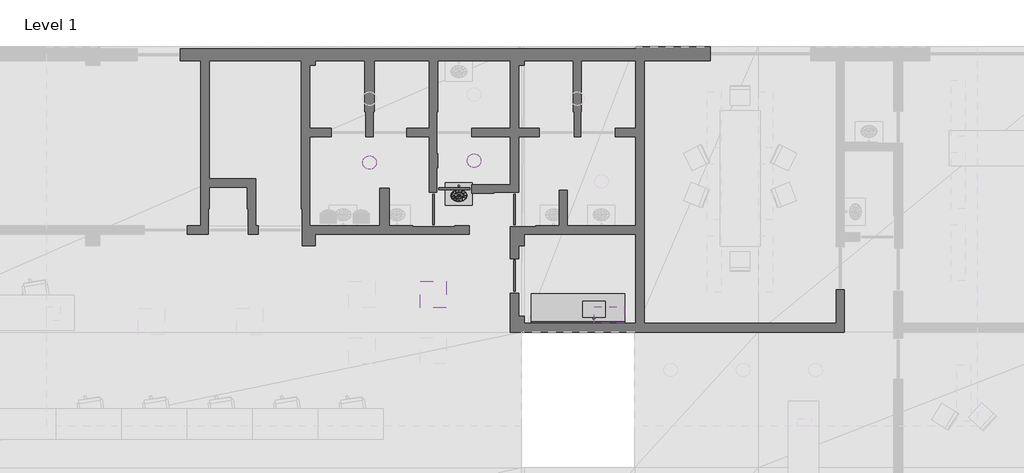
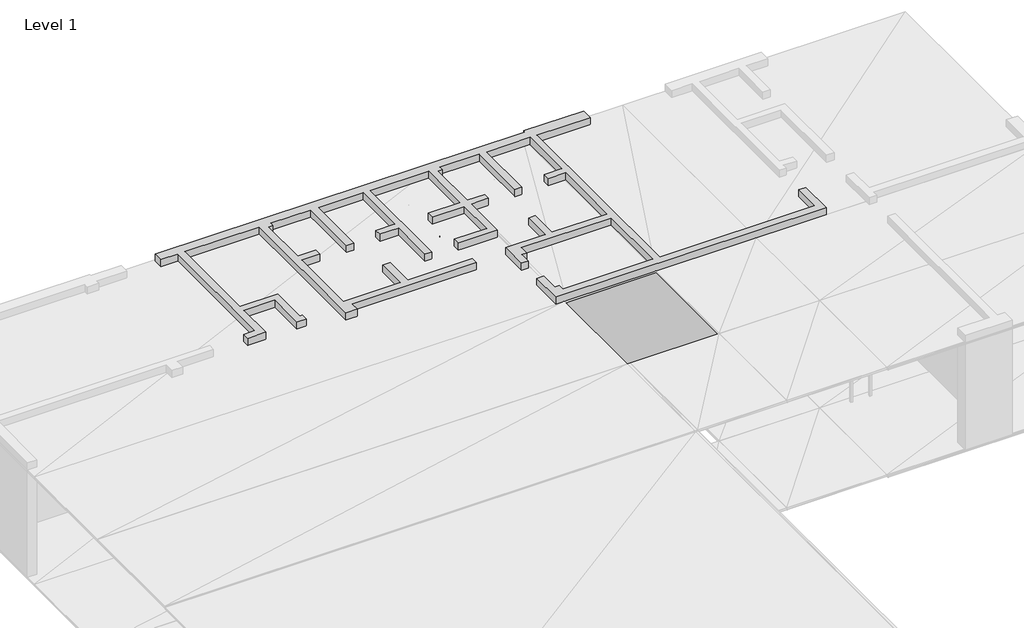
# One storey, part 12 of 14: 15 proxies.
"""IFC4 building model written with IfcOpenShell, lengths in millimetres."""

from ifc_helpers import new_model, si_unit, frame, origin, origin_with_axes, place, context, project, spatial, polyline, outline, extrude, faceted_brep, element, save

model = new_model("IFC4")

# Units and contexts
model_context = context("Model", 3, world=origin())
ifc_project = project(units=[si_unit("LENGTHUNIT", "METRE", prefix="MILLI")], contexts=[model_context])

# Site, building, storey
site = spatial("IfcSite", under=ifc_project)
building = spatial("IfcBuilding", under=site)
storey = spatial("IfcBuildingStorey", under=building, Name="Level 1", Elevation=0.0)

# Proxies
placement = place(None, origin())
element("IfcBuildingElementProxy", 1, Name="Generic Models", at=placement, inside=storey, context=model_context, shape_type="Brep", body=[
    faceted_brep([(6726.017475, 21950.000763, 2099.999905), (6726.017475, 22200.000763, 2099.999905), (6726.017475, 22200.000763, 0.0), (6726.017475, 21950.000763, 0.0), (6706.017494, 22200.000763, 2099.999905), (6706.017494, 21950.000763, 2099.999905), (6876.01757, 18239.999771, 2099.999905), (6876.01757, 18420.000076, 2099.999905), (6876.01757, 18420.000076, 0.0), (6876.01757, 18239.999771, 0.0), (6856.01759, 18420.000076, 2099.999905), (6856.01759, 18239.999771, 2099.999905), (8176.017761, 18239.999771, 2099.999905), (8176.017761, 18780.000687, 2099.999905), (8176.017761, 18780.000687, 0.0), (8176.017761, 18239.999771, 0.0), (7316.017628, 18780.000687, 0.0), (7316.017628, 18780.000687, 2099.999905), (7316.017628, 18239.999771, 2099.999905), (7316.017628, 18239.999771, 0.0), (8156.017303, 18780.000687, 2099.999905), (8156.017303, 18780.000687, 0.0), (7336.017609, 18780.000687, 0.0), (7336.017609, 18780.000687, 2099.999905), (8156.017303, 18239.999771, 2099.999905), (7336.017609, 18239.999771, 2099.999905), (9326.01738, 17989.999771, 2099.999905), (9326.01738, 18780.000687, 2099.999905), (9326.01738, 18780.000687, 0.0), (9326.01738, 17989.999771, 0.0), (8386.017799, 18239.999771, 2099.999905), (8386.017799, 18239.999771, 0.0), (8386.017799, 18420.000076, 0.0), (8386.017799, 18420.000076, 2099.999905), (9306.017876, 18780.000687, 2099.999905), (9306.017876, 18780.000687, 0.0), (8406.017303, 18239.999771, 2099.999905), (8406.017303, 18420.000076, 2099.999905), (9306.017876, 17989.999771, 2099.999905), (10846.017838, 20860.00061, 0.0), (10846.017838, 20860.00061, 2099.999905), (10846.017838, 20319.999695, 2099.999905), (10846.017838, 20319.999695, 0.0), (10866.017342, 20860.00061, 0.0), (10866.017342, 20860.00061, 2099.999905), (11566.017151, 20319.999695, 2099.999905), (11566.017151, 20500.0, 2099.999905), (11566.017151, 20500.0, 0.0), (11566.017151, 20319.999695, 0.0), (10866.017342, 20319.999695, 2099.999905), (11546.017647, 20500.0, 2099.999905), (11546.017647, 20319.999695, 2099.999905), (10686.01799, 20319.999695, 2099.999905), (10686.01799, 20860.00061, 2099.999905), (10686.01799, 20860.00061, 0.0), (10686.01799, 20319.999695, 0.0), (9946.017265, 20319.999695, 2099.999905), (9946.017265, 20319.999695, 0.0), (9946.017265, 20500.0, 0.0), (9946.017265, 20500.0, 2099.999905), (10666.017532, 20860.00061, 2099.999905), (10666.017532, 20860.00061, 0.0), (9966.017723, 20319.999695, 2099.999905), (9966.017723, 20500.0, 2099.999905), (10666.017532, 20319.999695, 2099.999905), (15276.017189, 20860.00061, 0.0), (15276.017189, 20860.00061, 2099.999905), (15276.017189, 20319.999695, 2099.999905), (15276.017189, 20319.999695, 0.0), (15296.017647, 20860.00061, 0.0), (15296.017647, 20860.00061, 2099.999905), (16016.017914, 20319.999695, 2099.999905), (16016.017914, 20500.0, 2099.999905), (16016.017914, 20500.0, 0.0), (16016.017914, 20319.999695, 0.0), (15296.017647, 20319.999695, 2099.999905), (15996.017456, 20500.0, 2099.999905), (15996.017456, 20319.999695, 2099.999905), (15136.017799, 20319.999695, 2099.999905), (15136.017799, 20860.00061, 2099.999905), (15136.017799, 20860.00061, 0.0), (15136.017799, 20319.999695, 0.0), (14396.018028, 20319.999695, 2099.999905), (14396.018028, 20319.999695, 0.0), (14396.018028, 20500.0, 0.0), (14396.018028, 20500.0, 2099.999905), (15116.017342, 20860.00061, 2099.999905), (15116.017342, 20860.00061, 0.0), (14416.017532, 20319.999695, 2099.999905), (14416.017532, 20500.0, 2099.999905), (15116.017342, 20319.999695, 2099.999905), (12206.017494, 20860.00061, 0.0), (12206.017494, 20860.00061, 2099.999905), (12206.017494, 19960.000992, 2099.999905), (12206.017494, 19960.000992, 0.0), (12226.017952, 20860.00061, 0.0), (12226.017952, 20860.00061, 2099.999905), (12946.017265, 20319.999695, 2099.999905), (12946.017265, 20500.0, 2099.999905), (12946.017265, 20500.0, 0.0), (12946.017265, 20319.999695, 0.0), (12226.017952, 19960.000992, 0.0), (12226.017952, 19960.000992, 2099.999905), (12926.017761, 20500.0, 2099.999905), (12926.017761, 20319.999695, 2099.999905), (12206.017494, 19659.999847, 0.0), (12206.017494, 19659.999847, 2099.999905), (12206.017494, 19140.001297, 2099.999905), (12206.017494, 19140.001297, 0.0), (12226.017952, 19659.999847, 0.0), (12226.017952, 19659.999847, 2099.999905), (12946.017265, 19120.000839, 2099.999905), (12946.017265, 19300.001144, 2099.999905), (12946.017265, 19300.001144, 0.0), (12946.017265, 19120.000839, 0.0), (12926.017761, 19300.001144, 2099.999905), (12926.017761, 19120.000839, 2099.999905), (11686.01799, 18399.999619, 0.0), (11686.01799, 18399.999619, 2099.999905), (12586.017609, 18399.999619, 2099.999905), (12586.017609, 18399.999619, 0.0), (11686.01799, 18420.000076, 0.0), (11686.01799, 18420.000076, 2099.999905), (12046.017647, 19140.001297, 2099.999905), (12046.017647, 19140.001297, 0.0), (12586.017609, 18420.000076, 0.0), (12586.017609, 18420.000076, 2099.999905), (12046.017647, 19120.000839, 2099.999905), (12226.017952, 19120.000839, 2099.999905), (13776.017189, 18399.999619, 2099.999905), (14316.017151, 18399.999619, 2099.999905), (14316.017151, 18399.999619, 0.0), (13776.017189, 18399.999619, 0.0), (13416.017532, 19120.000839, 0.0), (13416.017532, 19140.001297, 0.0), (13416.017532, 19140.001297, 2099.999905), (13416.017532, 19120.000839, 2099.999905), (13956.017494, 19140.001297, 0.0), (13956.017494, 19140.001297, 2099.999905), (14316.017151, 18420.000076, 0.0), (14316.017151, 18420.000076, 2099.999905), (13956.017494, 19120.000839, 2099.999905), (13776.017189, 18420.000076, 2099.999905), (13776.017189, 16979.999542, 2299.999952), (13956.017494, 16979.999542, 2299.999952), (13956.017494, 16979.999542, 0.0), (13776.017189, 16979.999542, 0.0), (13776.017189, 17720.001221, 2299.999952), (13776.017189, 17720.001221, 0.0), (13956.017494, 17720.001221, 0.0), (13956.017494, 17720.001221, 2299.999952), (13776.017189, 17000.0, 2299.999952), (13956.017494, 17000.0, 2299.999952), (13956.017494, 17700.000763, 2299.999952), (13776.017189, 17700.000763, 2299.999952), (20736.017227, 17050.001144, 2099.999905), (20916.017532, 17050.001144, 2099.999905), (20916.017532, 17050.001144, 0.0), (20736.017227, 17050.001144, 0.0), (20736.017227, 17069.999695, 2099.999905), (20916.017532, 17069.999695, 2099.999905), (15296.017647, 21950.000763, 0.0), (16456.018448, 21950.000763, 0.0), (16456.018448, 21950.000763, 3200.000048), (15296.017647, 21950.000763, 3200.000048), (15296.017647, 20319.999695, 3200.000048), (15116.017342, 20319.999695, 3200.000048), (15116.017342, 21950.000763, 0.0), (15116.017342, 21950.000763, 3200.000048), (14076.01738, 21950.000763, 0.0), (14076.01738, 21950.000763, 3200.000048), (14076.01738, 21850.000381, 0.0), (14076.01738, 21850.000381, 3200.000048), (13956.017494, 21850.000381, 0.0), (13956.017494, 21850.000381, 3200.000048), (13956.017494, 20500.0, 0.0), (13956.017494, 20500.0, 3200.000048), (14416.017532, 20500.0, 3200.000048), (14416.017532, 20319.999695, 3200.000048), (13956.017494, 20319.999695, 0.0), (13956.017494, 20319.999695, 3200.000048), (13956.017494, 19120.000839, 3200.000048), (12926.017761, 19120.000839, 3200.000048), (12926.017761, 19300.001144, 3200.000048), (13776.017189, 19300.001144, 0.0), (13776.017189, 19300.001144, 3200.000048), (13776.017189, 20319.999695, 0.0), (13776.017189, 20319.999695, 3200.000048), (12926.017761, 20319.999695, 3200.000048), (12926.017761, 20500.0, 3200.000048), (13776.017189, 20500.0, 0.0), (13776.017189, 20500.0, 3200.000048), (13776.017189, 21950.000763, 0.0), (13776.017189, 21950.000763, 3200.000048), (12226.017952, 21950.000763, 0.0), (12226.017952, 21950.000763, 3200.000048), (12226.017952, 19120.000839, 3200.000048), (12046.017647, 19120.000839, 3200.000048), (12046.017647, 20319.999695, 0.0), (12046.017647, 20319.999695, 3200.000048), (11546.017647, 20319.999695, 3200.000048), (11546.017647, 20500.0, 3200.000048), (12046.017647, 20500.0, 0.0), (12046.017647, 20500.0, 3200.000048), (12046.017647, 21950.000763, 0.0), (12046.017647, 21950.000763, 3200.000048), (10866.017342, 21950.000763, 0.0), (10866.017342, 21950.000763, 3200.000048), (10866.017342, 20319.999695, 3200.000048), (10666.017532, 20319.999695, 3200.000048), (10666.017532, 21950.000763, 0.0), (10666.017532, 21950.000763, 3200.000048), (9606.017113, 21950.000763, 0.0), (9606.017113, 21950.000763, 3200.000048), (9606.017113, 21850.000381, 0.0), (9606.017113, 21850.000381, 3200.000048), (9486.017227, 21850.000381, 0.0), (9486.017227, 21850.000381, 3200.000048), (9486.017227, 20500.0, 0.0), (9486.017227, 20500.0, 3200.000048), (9966.017723, 20500.0, 3200.000048), (9966.017723, 20319.999695, 3200.000048), (9486.017227, 20319.999695, 0.0), (9486.017227, 20319.999695, 3200.000048), (9486.017227, 18420.000076, 0.0), (9486.017227, 18420.000076, 3200.000048), (10986.017227, 18420.000076, 0.0), (10986.017227, 18420.000076, 3200.000048), (10986.017227, 19220.001221, 0.0), (10986.017227, 19220.001221, 3200.000048), (11186.01799, 19220.001221, 0.0), (11186.01799, 19220.001221, 3200.000048), (11186.01799, 18420.000076, 0.0), (11186.01799, 18420.000076, 3200.000048), (12896.018028, 18420.000076, 3200.000048), (12896.018028, 18420.000076, 0.0), (12896.018028, 18239.999771, 0.0), (12896.018028, 18239.999771, 3200.000048), (9606.017113, 18239.999771, 0.0), (9606.017113, 18239.999771, 3200.000048), (9606.017113, 17989.999771, 0.0), (9606.017113, 17989.999771, 3200.000048), (9306.017876, 17989.999771, 3200.000048), (9306.017876, 21950.000763, 0.0), (9306.017876, 21950.000763, 3200.000048), (7336.017609, 21950.000763, 0.0), (7336.017609, 21950.000763, 3200.000048), (7336.017609, 19420.000076, 0.0), (7336.017609, 19420.000076, 3200.000048), (8336.017609, 19420.000076, 0.0), (8336.017609, 19420.000076, 3200.000048), (8336.017609, 18420.000076, 0.0), (8336.017609, 18420.000076, 3200.000048), (8406.017303, 18420.000076, 3200.000048), (8406.017303, 18239.999771, 3200.000048), (8156.017303, 18239.999771, 3200.000048), (8156.017303, 19239.999771, 3200.000048), (8156.017303, 19239.999771, 0.0), (7336.017609, 19239.999771, 0.0), (7336.017609, 19239.999771, 3200.000048), (7336.017609, 18239.999771, 3200.000048), (6856.01759, 18239.999771, 3200.000048), (6856.01759, 18420.000076, 3200.000048), (7156.01778, 18420.000076, 3200.000048), (7156.01778, 18420.000076, 0.0), (7156.01778, 21950.000763, 0.0), (7156.01778, 21950.000763, 3200.000048), (6706.017494, 21950.000763, 3200.000048), (6706.017494, 22200.000763, 3200.000048), (16456.018448, 22200.000763, 3200.000048), (16456.018448, 22200.000763, 0.0), (16456.018448, 22250.0, 0.0), (16456.018448, 22250.0, 3200.000048), (18046.016693, 22250.0, 0.0), (18046.016693, 22250.0, 3200.000048), (18046.016693, 21950.000763, 0.0), (18046.016693, 21950.000763, 3200.000048), (16636.016846, 21950.000763, 0.0), (16636.016846, 21950.000763, 3200.000048), (16636.016846, 16340.000153, 0.0), (16636.016846, 16340.000153, 3200.000048), (20736.017227, 16340.000153, 0.0), (20736.017227, 16340.000153, 3200.000048), (20736.017227, 17069.999695, 3200.000048), (20916.017532, 17069.999695, 3200.000048), (20916.017532, 16140.001297, 0.0), (20916.017532, 16140.001297, 3200.000048), (13776.017189, 16140.001297, 0.0), (13776.017189, 16140.001297, 3200.000048), (13776.017189, 17000.0, 3200.000048), (13956.017494, 17000.0, 3200.000048), (13956.017494, 16489.999771, 0.0), (13956.017494, 16489.999771, 3200.000048), (14076.01738, 16489.999771, 0.0), (14076.01738, 16489.999771, 3200.000048), (14076.01738, 16340.000153, 0.0), (14076.01738, 16340.000153, 3200.000048), (16456.018448, 16340.000153, 0.0), (16456.018448, 16340.000153, 3200.000048), (16456.018448, 18239.999771, 0.0), (16456.018448, 18239.999771, 3200.000048), (14076.01738, 18239.999771, 0.0), (14076.01738, 18239.999771, 3200.000048), (14076.01738, 17989.999771, 0.0), (14076.01738, 17989.999771, 3200.000048), (13956.017494, 17989.999771, 0.0), (13956.017494, 17989.999771, 3200.000048), (13956.017494, 17700.000763, 3200.000048), (13776.017189, 17700.000763, 3200.000048), (13776.017189, 18420.000076, 3200.000048), (14816.017151, 18420.000076, 3200.000048), (14816.017151, 18420.000076, 0.0), (14816.017151, 19180.000305, 0.0), (14816.017151, 19180.000305, 3200.000048), (14996.017456, 19180.000305, 0.0), (14996.017456, 19180.000305, 3200.000048), (14996.017456, 18420.000076, 0.0), (14996.017456, 18420.000076, 3200.000048), (16456.018448, 18420.000076, 0.0), (16456.018448, 18420.000076, 3200.000048), (16456.018448, 20319.999695, 0.0), (16456.018448, 20319.999695, 3200.000048), (15996.017456, 20319.999695, 3200.000048), (15996.017456, 20500.0, 3200.000048), (16456.018448, 20500.0, 0.0), (16456.018448, 20500.0, 3200.000048)], [[[0, 1, 2, 3]], [[4, 1, 0, 5]], [[6, 7, 8, 9]], [[10, 7, 6, 11]], [[12, 13, 14, 15]], [[16, 17, 18, 19]], [[14, 13, 20, 21]], [[17, 16, 22, 23]], [[13, 12, 24, 20]], [[25, 18, 17, 23]], [[26, 27, 28, 29]], [[30, 31, 32, 33]], [[34, 35, 28, 27]], [[36, 30, 33, 37]], [[34, 27, 26, 38]], [[39, 40, 41, 42]], [[40, 39, 43, 44]], [[45, 46, 47, 48]], [[40, 44, 49, 41]], [[50, 46, 45, 51]], [[52, 53, 54, 55]], [[56, 57, 58, 59]], [[60, 61, 54, 53]], [[62, 56, 59, 63]], [[60, 53, 52, 64]], [[65, 66, 67, 68]], [[66, 65, 69, 70]], [[71, 72, 73, 74]], [[66, 70, 75, 67]], [[76, 72, 71, 77]], [[78, 79, 80, 81]], [[82, 83, 84, 85]], [[86, 87, 80, 79]], [[88, 82, 85, 89]], [[86, 79, 78, 90]], [[91, 92, 93, 94]], [[92, 91, 95, 96]], [[97, 98, 99, 100]], [[101, 94, 93, 102]], [[103, 98, 97, 104]], [[93, 92, 96, 102]], [[105, 106, 107, 108]], [[106, 105, 109, 110]], [[111, 112, 113, 114]], [[115, 112, 111, 116]], [[117, 118, 119, 120]], [[118, 117, 121, 122]], [[123, 124, 108, 107]], [[125, 120, 119, 126]], [[127, 123, 107, 106, 110, 128]], [[119, 118, 122, 126]], [[129, 130, 131, 132]], [[133, 134, 135, 136]], [[135, 134, 137, 138]], [[139, 131, 130, 140]], [[136, 135, 138, 141]], [[130, 129, 142, 140]], [[143, 144, 145, 146]], [[147, 148, 149, 150]], [[151, 152, 144, 143]], [[153, 154, 147, 150]], [[155, 156, 157, 158]], [[159, 160, 156, 155]], [[161, 162, 163, 164]], [[165, 75, 70, 69, 161, 164]], [[165, 166, 90, 78, 81, 68, 67, 75]], [[167, 87, 86, 90, 166, 168]], [[169, 167, 168, 170]], [[171, 169, 170, 172]], [[173, 171, 172, 174]], [[175, 173, 174, 176]], [[177, 89, 85, 84, 175, 176]], [[89, 177, 178, 88]], [[179, 83, 82, 88, 178, 180]], [[181, 141, 138, 137, 179, 180]], [[111, 114, 133, 136, 141, 181, 182, 116]], [[116, 182, 183, 115]], [[184, 113, 112, 115, 183, 185]], [[186, 184, 185, 187]], [[188, 104, 97, 100, 186, 187]], [[104, 188, 189, 103]], [[190, 99, 98, 103, 189, 191]], [[192, 190, 191, 193]], [[194, 192, 193, 195]], [[195, 196, 128, 110, 109, 101, 102, 96, 95, 194]], [[196, 197, 127, 128]], [[198, 124, 123, 127, 197, 199]], [[200, 51, 45, 48, 198, 199]], [[51, 200, 201, 50]], [[202, 47, 46, 50, 201, 203]], [[204, 202, 203, 205]], [[206, 204, 205, 207]], [[208, 49, 44, 43, 206, 207]], [[208, 209, 64, 52, 55, 42, 41, 49]], [[210, 61, 60, 64, 209, 211]], [[212, 210, 211, 213]], [[214, 212, 213, 215]], [[216, 214, 215, 217]], [[218, 216, 217, 219]], [[220, 63, 59, 58, 218, 219]], [[63, 220, 221, 62]], [[222, 57, 56, 62, 221, 223]], [[224, 222, 223, 225]], [[226, 224, 225, 227]], [[228, 226, 227, 229]], [[230, 228, 229, 231]], [[232, 230, 231, 233]], [[234, 235, 125, 126, 122, 121, 232, 233]], [[236, 235, 234, 237]], [[238, 236, 237, 239]], [[240, 238, 239, 241]], [[242, 38, 26, 29, 240, 241]], [[243, 35, 34, 38, 242, 244]], [[245, 243, 244, 246]], [[247, 245, 246, 248]], [[249, 247, 248, 250]], [[251, 249, 250, 252]], [[253, 37, 33, 32, 251, 252]], [[37, 253, 254, 36]], [[12, 15, 31, 30, 36, 254, 255, 24]], [[20, 24, 255, 256, 257, 21]], [[258, 257, 256, 259]], [[23, 22, 258, 259, 260, 25]], [[6, 9, 19, 18, 25, 260, 261, 11]], [[11, 261, 262, 10]], [[7, 10, 262, 263, 264, 8]], [[265, 264, 263, 266]], [[3, 265, 266, 267, 5, 0]], [[5, 267, 268, 4]], [[4, 268, 269, 270, 2, 1]], [[271, 270, 269, 272]], [[273, 271, 272, 274]], [[275, 273, 274, 276]], [[277, 275, 276, 278]], [[279, 277, 278, 280]], [[281, 279, 280, 282]], [[283, 159, 155, 158, 281, 282]], [[159, 283, 284, 160]], [[285, 157, 156, 160, 284, 286]], [[287, 285, 286, 288]], [[289, 151, 143, 146, 287, 288]], [[151, 289, 290, 152]], [[291, 145, 144, 152, 290, 292]], [[293, 291, 292, 294]], [[295, 293, 294, 296]], [[297, 295, 296, 298]], [[299, 297, 298, 300]], [[301, 299, 300, 302]], [[303, 301, 302, 304]], [[305, 303, 304, 306]], [[307, 153, 150, 149, 305, 306]], [[153, 307, 308, 154]], [[129, 132, 148, 147, 154, 308, 309, 142]], [[140, 142, 309, 310, 311, 139]], [[312, 311, 310, 313]], [[314, 312, 313, 315]], [[316, 314, 315, 317]], [[318, 316, 317, 319]], [[320, 318, 319, 321]], [[322, 77, 71, 74, 320, 321]], [[77, 322, 323, 76]], [[324, 73, 72, 76, 323, 325]], [[162, 324, 325, 163]], [[325, 323, 322, 321, 319, 317, 315, 313, 310, 309, 308, 307, 306, 304, 302, 300, 298, 296, 294, 292, 290, 289, 288, 286, 284, 283, 282, 280, 278, 276, 274, 272, 269, 268, 267, 266, 263, 262, 261, 260, 259, 256, 255, 254, 253, 252, 250, 248, 246, 244, 242, 241, 239, 237, 234, 233, 231, 229, 227, 225, 223, 221, 220, 219, 217, 215, 213, 211, 209, 208, 207, 205, 203, 201, 200, 199, 197, 196, 195, 193, 191, 189, 188, 187, 185, 183, 182, 181, 180, 178, 177, 176, 174, 172, 170, 168, 166, 165, 164, 163]], [[65, 68, 81, 80, 87, 167, 169, 171, 173, 175, 84, 83, 179, 137, 134, 133, 114, 113, 184, 186, 100, 99, 190, 192, 194, 95, 91, 94, 101, 109, 105, 108, 124, 198, 48, 47, 202, 204, 206, 43, 39, 42, 55, 54, 61, 210, 212, 214, 216, 218, 58, 57, 222, 224, 226, 228, 230, 232, 121, 117, 120, 125, 235, 236, 238, 240, 29, 28, 35, 243, 245, 247, 249, 251, 32, 31, 15, 14, 21, 257, 258, 22, 16, 19, 9, 8, 264, 265, 3, 2, 270, 271, 273, 275, 277, 279, 281, 158, 157, 285, 287, 146, 145, 291, 293, 295, 297, 299, 301, 303, 305, 149, 148, 132, 131, 139, 311, 312, 314, 316, 318, 320, 74, 73, 324, 162, 161, 69]]]),
])
element("IfcBuildingElementProxy", 2, Name="Generic Models", at=placement, inside=storey, context=model_context, shape_type="SweptSolid", body=[
    extrude(outline(polyline([(13883.517265, 17020.999908), (13848.517418, 17020.999908), (13848.517418, 17679.000854), (13883.517265, 17679.000854), (13883.517265, 17020.999908)])), origin_with_axes(), (0.0, 0.0, 1.0), 2299.999952),
])
element("IfcBuildingElementProxy", 3, Name="Generic Models", at=placement, inside=storey, context=model_context, shape_type="SweptSolid", body=[
    extrude(outline(polyline([(13883.517265, 18440.999985), (13848.517418, 18440.999985), (13848.517418, 19099.000931), (13883.517265, 19099.000931), (13883.517265, 18440.999985)])), origin_with_axes(), (0.0, 0.0, 1.0), 2099.999905),
])
element("IfcBuildingElementProxy", 4, Name="Generic Models", at=placement, inside=storey, context=model_context, shape_type="SweptSolid", body=[
    extrude(outline(polyline([(12153.517723, 18440.999985), (12118.517876, 18440.999985), (12118.517876, 19099.000931), (12153.517723, 19099.000931), (12153.517723, 18440.999985)])), origin_with_axes(), (0.0, 0.0, 1.0), 2099.999905),
])
element("IfcBuildingElementProxy", 5, Name="Generic Models", at=placement, inside=storey, context=model_context, shape_type="SweptSolid", body=[
    extrude(outline(polyline([(12247.01786, 19192.501068), (12247.01786, 19227.500916), (12905.017853, 19227.500916), (12905.017853, 19192.501068), (12247.01786, 19192.501068)])), origin_with_axes(), (0.0, 0.0, 1.0), 2099.999905),
])
element("IfcBuildingElementProxy", 6, Name="Generic Models", at=placement, inside=storey, context=model_context, shape_type="SweptSolid", body=[
    extrude(outline(polyline([(15544.333458, 16367.00058), (15544.333458, 16952.999115), (15562.333107, 16952.999115), (15562.333107, 16367.00058), (15544.333458, 16367.00058)])), frame((0.0, 0.0, 25.0), z_axis=(0.0, 0.0, 1.0), x_axis=(1.0, 0.0, 0.0)), (0.0, 0.0, 1.0), 809.999979),
    extrude(outline(polyline([(14877.666473, 16367.00058), (14877.666473, 16952.999115), (14895.667076, 16952.999115), (14895.667076, 16367.00058), (14877.666473, 16367.00058)])), frame((0.0, 0.0, 25.0), z_axis=(0.0, 0.0, 1.0), x_axis=(1.0, 0.0, 0.0)), (0.0, 0.0, 1.0), 809.999979),
    extrude(outline(polyline([(14220.000267, 16370.000839), (14220.000267, 16950.000763), (16219.999313, 16950.000763), (16219.999313, 16370.000839), (14220.000267, 16370.000839)])), origin_with_axes(), (0.0, 0.0, 1.0), 865.00001),
])
element("IfcBuildingElementProxy", 7, Name="Generic Models", at=placement, inside=storey, context=model_context, shape_type="SweptSolid", body=[
    extrude(outline(polyline([(14220.000267, 16350.000381), (14220.000267, 16969.999313), (16219.999313, 16969.999313), (16219.999313, 16350.000381), (14220.000267, 16350.000381)])), frame((0.0, 0.0, 884.99999), z_axis=(0.0, 0.0, 1.0), x_axis=(1.0, 0.0, 0.0)), (0.0, 0.0, 1.0), 14.999986),
])
element("IfcBuildingElementProxy", 8, Name="Generic Models", at=placement, inside=storey, context=model_context, shape_type="Brep", body=[
    faceted_brep([(15633.612633, 16625.0, 915.39228), (15645.000458, 16649.999619, 915.39228), (15560.00042, 16649.999619, 916.999996), (15687.5, 16606.69899, 911.000013), (15633.612633, 16575.000763, 911.000013), (15602.499962, 16606.69899, 915.39228), (15707.223892, 16649.999619, 911.000013), (15633.612633, 16674.999237, 915.39228), (15560.00042, 16600.000381, 915.39228), (15517.499924, 16606.69899, 915.39228), (15486.388206, 16625.0, 915.39228), (15475.000381, 16649.999619, 915.39228), (15486.388206, 16674.999237, 915.39228), (15517.499924, 16693.302155, 915.39228), (15560.00042, 16700.000763, 915.39228), (15602.499962, 16693.302155, 915.39228), (15707.223892, 16600.000381, 904.999971), (15645.000458, 16563.398361, 904.999971), (15560.00042, 16563.398361, 911.000013), (15560.00042, 16549.999237, 904.999971), (15729.999542, 16649.999619, 904.999971), (15687.5, 16693.302155, 911.000013), (15486.388206, 16575.000763, 911.000013), (15432.499886, 16606.69899, 911.000013), (15412.775993, 16649.999619, 911.000013), (15432.499886, 16693.302155, 911.000013), (15486.388206, 16725.000381, 911.000013), (15560.00042, 16736.602783, 911.000013), (15633.612633, 16725.000381, 911.000013), (15687.5, 16606.69899, 898.999989), (15633.612633, 16575.000763, 898.999989), (15560.00042, 16563.398361, 898.999989), (15475.000381, 16563.398361, 904.999971), (15486.388206, 16575.000763, 898.999989), (15707.223892, 16649.999619, 898.999989), (15707.223892, 16700.000763, 904.999971), (15412.775993, 16600.000381, 904.999971), (15390.000343, 16649.999619, 904.999971), (15412.775993, 16700.000763, 904.999971), (15475.000381, 16736.602783, 904.999971), (15560.00042, 16750.0, 904.999971), (15645.000458, 16736.602783, 904.999971), (15633.612633, 16625.0, 894.607723), (15602.499962, 16606.69899, 894.607723), (15560.00042, 16600.000381, 894.607723), (15517.499924, 16606.69899, 894.607723), (15432.499886, 16606.69899, 898.999989), (15486.388206, 16625.0, 894.607723), (15645.000458, 16649.999619, 894.607723), (15687.5, 16693.302155, 898.999989), (15412.775993, 16649.999619, 898.999989), (15432.499886, 16693.302155, 898.999989), (15486.388206, 16725.000381, 898.999989), (15560.00042, 16736.602783, 898.999989), (15633.612633, 16725.000381, 898.999989), (15560.00042, 16649.999619, 893.000007), (15475.000381, 16649.999619, 894.607723), (15633.612633, 16674.999237, 894.607723), (15486.388206, 16674.999237, 894.607723), (15517.499924, 16693.302155, 894.607723), (15560.00042, 16700.000763, 894.607723), (15602.499962, 16693.302155, 894.607723)], [[[0, 1, 2]], [[3, 1, 0]], [[4, 3, 0]], [[4, 0, 5]], [[5, 0, 2]], [[3, 6, 1]], [[6, 7, 1]], [[1, 7, 2]], [[8, 5, 2]], [[9, 8, 2]], [[10, 9, 2]], [[11, 10, 2]], [[12, 11, 2]], [[13, 12, 2]], [[14, 13, 2]], [[15, 14, 2]], [[7, 15, 2]], [[16, 6, 3]], [[17, 16, 3]], [[17, 3, 4]], [[18, 4, 5]], [[19, 17, 4]], [[19, 4, 18]], [[18, 5, 8]], [[16, 20, 6]], [[20, 21, 6]], [[6, 21, 7]], [[21, 15, 7]], [[22, 18, 8]], [[22, 8, 9]], [[23, 22, 9]], [[23, 9, 10]], [[24, 23, 10]], [[24, 10, 11]], [[25, 24, 11]], [[25, 11, 12]], [[26, 25, 12]], [[26, 12, 13]], [[27, 26, 13]], [[27, 13, 14]], [[28, 27, 14]], [[28, 14, 15]], [[21, 28, 15]], [[29, 20, 16]], [[30, 29, 16]], [[30, 16, 17]], [[31, 30, 17]], [[31, 17, 19]], [[32, 19, 18]], [[32, 18, 22]], [[33, 31, 19]], [[33, 19, 32]], [[29, 34, 20]], [[34, 35, 20]], [[20, 35, 21]], [[35, 28, 21]], [[36, 32, 22]], [[36, 22, 23]], [[37, 36, 23]], [[37, 23, 24]], [[38, 37, 24]], [[38, 24, 25]], [[39, 38, 25]], [[39, 25, 26]], [[40, 39, 26]], [[40, 26, 27]], [[41, 40, 27]], [[41, 27, 28]], [[35, 41, 28]], [[42, 34, 29]], [[43, 42, 29]], [[43, 29, 30]], [[44, 43, 30]], [[44, 30, 31]], [[45, 44, 31]], [[45, 31, 33]], [[46, 33, 32]], [[46, 32, 36]], [[47, 45, 33]], [[47, 33, 46]], [[42, 48, 34]], [[48, 49, 34]], [[34, 49, 35]], [[49, 41, 35]], [[50, 46, 36]], [[50, 36, 37]], [[51, 50, 37]], [[51, 37, 38]], [[52, 51, 38]], [[52, 38, 39]], [[53, 52, 39]], [[53, 39, 40]], [[54, 53, 40]], [[54, 40, 41]], [[49, 54, 41]], [[55, 48, 42]], [[55, 42, 43]], [[55, 43, 44]], [[55, 44, 45]], [[55, 45, 47]], [[56, 47, 46]], [[56, 46, 50]], [[55, 47, 56]], [[48, 57, 49]], [[55, 57, 48]], [[57, 54, 49]], [[58, 56, 50]], [[58, 50, 51]], [[59, 58, 51]], [[59, 51, 52]], [[60, 59, 52]], [[60, 52, 53]], [[61, 60, 53]], [[61, 53, 54]], [[57, 61, 54]], [[55, 56, 58]], [[55, 58, 59]], [[55, 59, 60]], [[55, 60, 61]], [[55, 61, 57]]]),
    faceted_brep([(15575.588226, 16448.999405, 1149.999976), (15569.000244, 16455.589294, 1149.999976), (15560.00042, 16458.000183, 1149.999976), (15550.999641, 16455.589294, 1149.999976), (15544.411659, 16448.999405, 1149.999976), (15541.999817, 16440.000534, 1149.999976), (15544.411659, 16430.999756, 1149.999976), (15550.999641, 16424.411774, 1149.999976), (15560.00042, 16422.000885, 1149.999976), (15569.000244, 16424.411774, 1149.999976), (15575.588226, 16430.999756, 1149.999976), (15578.000069, 16440.000534, 1149.999976), (15569.000244, 16455.589294, 910.000026), (15560.00042, 16458.000183, 910.000026), (15541.999817, 16440.000534, 910.000026), (15544.411659, 16430.999756, 910.000026), (15569.000244, 16424.411774, 910.000026), (15575.588226, 16430.999756, 910.000026), (15550.999641, 16455.589294, 910.000026), (15544.411659, 16448.999405, 910.000026), (15550.999641, 16424.411774, 910.000026), (15560.00042, 16422.000885, 910.000026), (15578.000069, 16440.000534, 910.000026), (15575.588226, 16448.999405, 910.000026)], [[[0, 1, 2, 3, 4, 5, 6, 7, 8, 9, 10, 11]], [[12, 13, 2, 1]], [[14, 15, 6, 5]], [[16, 17, 10, 9]], [[18, 19, 4, 3]], [[20, 21, 8, 7]], [[22, 23, 0, 11]], [[13, 18, 3, 2]], [[23, 12, 1, 0]], [[19, 14, 5, 4]], [[15, 20, 7, 6]], [[21, 16, 9, 8]], [[16, 21, 20, 15, 14, 19, 18, 13, 12, 23, 22, 17]], [[17, 22, 11, 10]]]),
    faceted_brep([(15350.000381, 16780.000687, 877.499998), (15350.000381, 16500.0, 877.499998), (15350.000381, 16500.0, 892.499983), (15350.000381, 16780.000687, 892.499983), (15770.000458, 16780.000687, 877.499998), (15770.000458, 16780.000687, 892.499983), (15770.000458, 16500.0, 877.499998), (15770.000458, 16500.0, 892.499983)], [[[0, 1, 2, 3]], [[4, 0, 3, 5]], [[1, 0, 4, 6]], [[2, 7, 5, 3]], [[1, 6, 7, 2]], [[6, 4, 5, 7]]]),
    faceted_brep([(15319.999695, 16809.999466, 897.499979), (15319.999695, 16469.999313, 897.499979), (15319.999695, 16469.999313, 922.500014), (15319.999695, 16809.999466, 922.500014), (15800.000191, 16809.999466, 897.499979), (15800.000191, 16809.999466, 922.500014), (15800.000191, 16469.999313, 897.499979), (15800.000191, 16469.999313, 922.500014)], [[[0, 1, 2, 3]], [[4, 0, 3, 5]], [[1, 0, 4, 6]], [[2, 7, 5, 3]], [[1, 6, 7, 2]], [[6, 4, 5, 7]]]),
])
element("IfcBuildingElementProxy", 9, Name="Generic Models", at=placement, inside=storey, context=model_context, shape_type="SweptSolid", body=[
    extrude(outline(polyline([(14220.000267, 16342.500687), (14220.000267, 16367.500305), (16219.999313, 16367.500305), (16219.999313, 16342.500687), (14220.000267, 16342.500687)])), frame((0.0, 0.0, 899.999976), z_axis=(0.0, 0.0, 1.0), x_axis=(1.0, 0.0, 0.0)), (0.0, 0.0, 1.0), 519.999981),
])
element("IfcBuildingElementProxy", 10, Name="Generic Models", at=placement, inside=storey, context=model_context, shape_type="SweptSolid", body=[
    extrude(outline(polyline([(16057.666779, 16527.500153), (16057.666779, 16552.499771), (16075.666428, 16552.499771), (16075.666428, 16527.500153), (16057.666779, 16527.500153)])), frame((0.0, 0.0, 1664.999962), z_axis=(0.0, 0.0, 1.0), x_axis=(1.0, 0.0, 0.0)), (0.0, 0.0, 1.0), 230.000019),
    extrude(outline(polyline([(15390.999794, 16527.500153), (15390.999794, 16552.499771), (15409.000397, 16552.499771), (15409.000397, 16527.500153), (15390.999794, 16527.500153)])), frame((0.0, 0.0, 1664.999962), z_axis=(0.0, 0.0, 1.0), x_axis=(1.0, 0.0, 0.0)), (0.0, 0.0, 1.0), 230.000019),
    extrude(outline(polyline([(14724.333763, 16527.500153), (14724.333763, 16552.499771), (14742.333412, 16552.499771), (14742.333412, 16527.500153), (14724.333763, 16527.500153)])), frame((0.0, 0.0, 1664.999962), z_axis=(0.0, 0.0, 1.0), x_axis=(1.0, 0.0, 0.0)), (0.0, 0.0, 1.0), 230.000019),
    extrude(outline(polyline([(14232.500076, 16350.000381), (14232.500076, 16690.000534), (14874.166489, 16690.000534), (14874.166489, 16350.000381), (14232.500076, 16350.000381)])), frame((0.0, 0.0, 1440.000057), z_axis=(0.0, 0.0, 1.0), x_axis=(1.0, 0.0, 0.0)), (0.0, 0.0, 1.0), 679.999829),
    extrude(outline(polyline([(14899.167061, 16350.000381), (14899.167061, 16690.000534), (15540.833473, 16690.000534), (15540.833473, 16350.000381), (14899.167061, 16350.000381)])), frame((0.0, 0.0, 1440.000057), z_axis=(0.0, 0.0, 1.0), x_axis=(1.0, 0.0, 0.0)), (0.0, 0.0, 1.0), 679.999829),
    extrude(outline(polyline([(15565.833092, 16350.000381), (15565.833092, 16690.000534), (16207.500458, 16690.000534), (16207.500458, 16350.000381), (15565.833092, 16350.000381)])), frame((0.0, 0.0, 1440.000057), z_axis=(0.0, 0.0, 1.0), x_axis=(1.0, 0.0, 0.0)), (0.0, 0.0, 1.0), 679.999829),
])
element("IfcBuildingElementProxy", 11, Name="Generic Models", at=placement, inside=storey, context=model_context, shape_type="SweptSolid", body=[
    extrude(outline(polyline([(11846.017838, 16670.381546), (11846.017838, 17230.382919), (12406.017303, 17230.382919), (12406.017303, 16670.381546), (11846.017838, 16670.381546)])), frame((0.0, 0.0, 2910.000086), z_axis=(0.0, 0.0, 1.0), x_axis=(1.0, 0.0, 0.0)), (0.0, 0.0, 1.0), 39.999962),
])
element("IfcBuildingElementProxy", 12, Name="Generic Models", at=placement, inside=storey, context=model_context, shape_type="SweptSolid", body=[
    extrude(outline(polyline([(13137.160301, 19753.606796), (13123.542786, 19728.130341), (13105.21698, 19705.80101), (13082.886696, 19687.473297), (13057.41024, 19673.856735), (13029.766083, 19665.470123), (13001.01757, 19662.639618), (12972.269058, 19665.470123), (12944.624901, 19673.856735), (12919.148445, 19687.473297), (12896.818161, 19705.80101), (12878.492355, 19728.130341), (12864.87484, 19753.606796), (12856.489182, 19781.25), (12853.657722, 19809.999466), (12856.489182, 19838.748932), (12864.87484, 19866.392136), (12878.492355, 19891.868591), (12896.818161, 19914.197922), (12919.148445, 19932.525635), (12944.624901, 19946.142197), (12972.269058, 19954.528809), (13001.01757, 19957.359314), (13029.766083, 19954.528809), (13057.41024, 19946.142197), (13082.886696, 19932.525635), (13105.21698, 19914.197922), (13123.542786, 19891.868591), (13137.160301, 19866.392136), (13145.545959, 19838.748932), (13148.377419, 19809.999466), (13145.545959, 19781.25), (13137.160301, 19753.606796)])), frame((0.0, 0.0, 2910.000086), z_axis=(0.0, 0.0, 1.0), x_axis=(1.0, 0.0, 0.0)), (0.0, 0.0, 1.0), 39.999962),
])
element("IfcBuildingElementProxy", 13, Name="Generic Models", at=placement, inside=storey, context=model_context, shape_type="SweptSolid", body=[
    extrude(outline(polyline([(10902.160645, 19713.607788), (10888.543129, 19688.131332), (10870.217323, 19665.802002), (10847.887039, 19647.474289), (10822.410583, 19633.857727), (10794.766426, 19625.471115), (10766.017914, 19622.64061), (10737.269402, 19625.471115), (10709.625244, 19633.857727), (10684.148788, 19647.474289), (10661.818504, 19665.802002), (10643.492699, 19688.131332), (10629.875183, 19713.607788), (10621.489525, 19741.250992), (10618.658066, 19770.000458), (10621.489525, 19798.749924), (10629.875183, 19826.393127), (10643.492699, 19851.869583), (10661.818504, 19874.198914), (10684.148788, 19892.526627), (10709.625244, 19906.143188), (10737.269402, 19914.5298), (10766.017914, 19917.360306), (10794.766426, 19914.5298), (10822.410583, 19906.143188), (10847.887039, 19892.526627), (10870.217323, 19874.198914), (10888.543129, 19851.869583), (10902.160645, 19826.393127), (10910.546303, 19798.749924), (10913.377762, 19770.000458), (10910.546303, 19741.250992), (10902.160645, 19713.607788)])), frame((0.0, 0.0, 2910.000086), z_axis=(0.0, 0.0, 1.0), x_axis=(1.0, 0.0, 0.0)), (0.0, 0.0, 1.0), 39.999962),
])
element("IfcBuildingElementProxy", 14, Name="Generic Models", at=placement, inside=storey, context=model_context, shape_type="Brep", body=[
    faceted_brep([(12593.727112, 19100.000381, 868.971169), (12581.000328, 19065.000534, 868.971169), (12675.999641, 19065.000534, 875.0), (12533.499718, 19125.621796, 852.500021), (12593.727112, 19170.000076, 852.500021), (12628.499985, 19125.621796, 868.971169), (12511.455536, 19065.000534, 852.500021), (12593.727112, 19030.000687, 868.971169), (12675.999641, 19135.000229, 868.971169), (12723.500252, 19125.621796, 868.971169), (12758.272171, 19100.000381, 868.971169), (12770.999908, 19065.000534, 868.971169), (12758.272171, 19030.000687, 868.971169), (12723.500252, 19004.377365, 868.971169), (12675.999641, 18995.000839, 868.971169), (12628.499985, 19004.377365, 868.971169), (12511.455536, 19135.000229, 829.999983), (12581.000328, 19186.243057, 829.999983), (12675.999641, 19186.243057, 852.500021), (12675.999641, 19204.999924, 829.999983), (12486.000061, 19065.000534, 829.999983), (12533.499718, 19004.377365, 852.500021), (12758.272171, 19170.000076, 852.500021), (12818.499565, 19125.621796, 852.500021), (12840.544701, 19065.000534, 852.500021), (12818.499565, 19004.377365, 852.500021), (12758.272171, 18959.999084, 852.500021), (12675.999641, 18943.756104, 852.500021), (12593.727112, 18959.999084, 852.500021), (12533.499718, 19125.621796, 807.500005), (12593.727112, 19170.000076, 807.500005), (12675.999641, 19186.243057, 807.500005), (12770.999908, 19186.243057, 829.999983), (12758.272171, 19170.000076, 807.500005), (12511.455536, 19065.000534, 807.500005), (12511.455536, 18995.000839, 829.999983), (12840.544701, 19135.000229, 829.999983), (12866.000175, 19065.000534, 829.999983), (12840.544701, 18995.000839, 829.999983), (12770.999908, 18943.756104, 829.999983), (12675.999641, 18924.999237, 829.999983), (12581.000328, 18943.756104, 829.999983), (12593.727112, 19100.000381, 791.028857), (12628.499985, 19125.621796, 791.028857), (12675.999641, 19135.000229, 791.028857), (12723.500252, 19125.621796, 791.028857), (12818.499565, 19125.621796, 807.500005), (12758.272171, 19100.000381, 791.028857), (12581.000328, 19065.000534, 791.028857), (12533.499718, 19004.377365, 807.500005), (12840.544701, 19065.000534, 807.500005), (12818.499565, 19004.377365, 807.500005), (12758.272171, 18959.999084, 807.500005), (12675.999641, 18943.756104, 807.500005), (12593.727112, 18959.999084, 807.500005), (12675.999641, 19065.000534, 785.000026), (12770.999908, 19065.000534, 791.028857), (12593.727112, 19030.000687, 791.028857), (12758.272171, 19030.000687, 791.028857), (12723.500252, 19004.377365, 791.028857), (12675.999641, 18995.000839, 791.028857), (12628.499985, 19004.377365, 791.028857)], [[[0, 1, 2]], [[3, 1, 0]], [[4, 3, 0]], [[4, 0, 5]], [[5, 0, 2]], [[3, 6, 1]], [[6, 7, 1]], [[1, 7, 2]], [[8, 5, 2]], [[9, 8, 2]], [[10, 9, 2]], [[11, 10, 2]], [[12, 11, 2]], [[13, 12, 2]], [[14, 13, 2]], [[15, 14, 2]], [[7, 15, 2]], [[16, 6, 3]], [[17, 16, 3]], [[17, 3, 4]], [[18, 4, 5]], [[19, 17, 4]], [[19, 4, 18]], [[18, 5, 8]], [[16, 20, 6]], [[20, 21, 6]], [[6, 21, 7]], [[21, 15, 7]], [[22, 18, 8]], [[22, 8, 9]], [[23, 22, 9]], [[23, 9, 10]], [[24, 23, 10]], [[24, 10, 11]], [[25, 24, 11]], [[25, 11, 12]], [[26, 25, 12]], [[26, 12, 13]], [[27, 26, 13]], [[27, 13, 14]], [[28, 27, 14]], [[28, 14, 15]], [[21, 28, 15]], [[29, 20, 16]], [[30, 29, 16]], [[30, 16, 17]], [[31, 30, 17]], [[31, 17, 19]], [[32, 19, 18]], [[32, 18, 22]], [[33, 31, 19]], [[33, 19, 32]], [[29, 34, 20]], [[34, 35, 20]], [[20, 35, 21]], [[35, 28, 21]], [[36, 32, 22]], [[36, 22, 23]], [[37, 36, 23]], [[37, 23, 24]], [[38, 37, 24]], [[38, 24, 25]], [[39, 38, 25]], [[39, 25, 26]], [[40, 39, 26]], [[40, 26, 27]], [[41, 40, 27]], [[41, 27, 28]], [[35, 41, 28]], [[42, 34, 29]], [[43, 42, 29]], [[43, 29, 30]], [[44, 43, 30]], [[44, 30, 31]], [[45, 44, 31]], [[45, 31, 33]], [[46, 33, 32]], [[46, 32, 36]], [[47, 45, 33]], [[47, 33, 46]], [[42, 48, 34]], [[48, 49, 34]], [[34, 49, 35]], [[49, 41, 35]], [[50, 46, 36]], [[50, 36, 37]], [[51, 50, 37]], [[51, 37, 38]], [[52, 51, 38]], [[52, 38, 39]], [[53, 52, 39]], [[53, 39, 40]], [[54, 53, 40]], [[54, 40, 41]], [[49, 54, 41]], [[55, 48, 42]], [[55, 42, 43]], [[55, 43, 44]], [[55, 44, 45]], [[55, 45, 47]], [[56, 47, 46]], [[56, 46, 50]], [[55, 47, 56]], [[48, 57, 49]], [[55, 57, 48]], [[57, 54, 49]], [[58, 56, 50]], [[58, 50, 51]], [[59, 58, 51]], [[59, 51, 52]], [[60, 59, 52]], [[60, 52, 53]], [[61, 60, 53]], [[61, 53, 54]], [[57, 61, 54]], [[55, 56, 58]], [[55, 58, 59]], [[55, 59, 60]], [[55, 60, 61]], [[55, 61, 57]]]),
    faceted_brep([(12691.588402, 19278.999329, 1000.0), (12685.00042, 19285.589218, 1000.0), (12675.999641, 19288.000107, 1000.0), (12666.999817, 19285.589218, 1000.0), (12660.411835, 19278.999329, 1000.0), (12657.999992, 19270.000458, 1000.0), (12660.411835, 19260.99968, 1000.0), (12666.999817, 19254.411697, 1000.0), (12675.999641, 19252.000809, 1000.0), (12685.00042, 19254.411697, 1000.0), (12691.588402, 19260.99968, 1000.0), (12694.000244, 19270.000458, 1000.0), (12685.00042, 19285.589218, 819.999993), (12675.999641, 19288.000107, 819.999993), (12657.999992, 19270.000458, 819.999993), (12660.411835, 19260.99968, 819.999993), (12685.00042, 19254.411697, 819.999993), (12691.588402, 19260.99968, 819.999993), (12666.999817, 19285.589218, 819.999993), (12660.411835, 19278.999329, 819.999993), (12666.999817, 19254.411697, 819.999993), (12675.999641, 19252.000809, 819.999993), (12694.000244, 19270.000458, 819.999993), (12691.588402, 19278.999329, 819.999993)], [[[0, 1, 2, 3, 4, 5, 6, 7, 8, 9, 10, 11]], [[12, 13, 2, 1]], [[14, 15, 6, 5]], [[16, 17, 10, 9]], [[18, 19, 4, 3]], [[20, 21, 8, 7]], [[22, 23, 0, 11]], [[13, 18, 3, 2]], [[23, 12, 1, 0]], [[19, 14, 5, 4]], [[15, 20, 7, 6]], [[21, 16, 9, 8]], [[16, 21, 20, 15, 14, 19, 18, 13, 12, 23, 22, 17]], [[17, 22, 11, 10]]]),
    faceted_brep([(12965.999603, 18860.00061, 759.99999), (12965.999603, 19340.000153, 759.99999), (12965.999603, 19340.000153, 839.999974), (12965.999603, 18860.00061, 839.999974), (12385.99968, 18860.00061, 759.99999), (12385.99968, 18860.00061, 839.999974), (12385.99968, 19340.000153, 759.99999), (12385.99968, 19340.000153, 839.999974)], [[[0, 1, 2, 3]], [[4, 0, 3, 5]], [[1, 0, 4, 6]], [[2, 7, 5, 3]], [[1, 6, 7, 2]], [[6, 4, 5, 7]]]),
    faceted_brep([(12925.999641, 18899.999619, 39.999999), (12925.999641, 19299.999237, 39.999999), (12925.999641, 19299.999237, 759.99999), (12925.999641, 18899.999619, 759.99999), (12425.999641, 18899.999619, 39.999999), (12425.999641, 18899.999619, 759.99999), (12425.999641, 19299.999237, 39.999999), (12425.999641, 19299.999237, 759.99999)], [[[0, 1, 2, 3]], [[4, 0, 3, 5]], [[1, 0, 4, 6]], [[2, 7, 5, 3]], [[1, 6, 7, 2]], [[6, 4, 5, 7]]]),
])
element("IfcBuildingElementProxy", 15, Name="Generic Models", at=placement, inside=storey, context=model_context, shape_type="Brep", body=[
    faceted_brep([(16219.9993134, 16422.000885, 865.0000095), (14220.000267, 16367.0005798, 865.0000095), (14220.000267, 16422.000885, 865.0000095), (16219.9993134, 16367.0005798, 884.9999905), (16219.9993134, 16367.0005798, 865.0000095), (16219.9993134, 16422.000885, 884.9999905), (14220.000267, 16367.0005798, 884.9999905), (14220.000267, 16422.000885, 884.9999905)], [[[0, 1, 2]], [[3, 1, 4]], [[5, 4, 0]], [[4, 1, 0]], [[5, 6, 3]], [[7, 6, 5]], [[6, 1, 3]], [[3, 4, 5]], [[7, 0, 2]], [[5, 0, 7]], [[6, 2, 1]], [[7, 2, 6]]]),
    faceted_brep([(14220.000267, 16952.999115, 884.9999905), (14220.000267, 16809.9994659, 884.9999905), (16219.9993134, 16952.999115, 884.9999905), (16219.9993134, 16809.9994659, 884.9999905), (14220.000267, 16809.9994659, 865.0000095), (16219.9993134, 16809.9994659, 865.0000095), (16219.9993134, 16952.999115, 865.0000095), (14220.000267, 16952.999115, 865.0000095)], [[[0, 1, 2]], [[3, 4, 5]], [[1, 4, 3]], [[3, 5, 2]], [[6, 4, 7]], [[5, 4, 6]], [[2, 1, 3]], [[2, 5, 6]], [[0, 6, 7]], [[2, 6, 0]], [[1, 7, 4]], [[0, 7, 1]]]),
    faceted_brep([(15319.9996948, 16809.9994659, 865.0000095), (14220.000267, 16422.000885, 865.0000095), (14220.000267, 16809.9994659, 865.0000095), (15319.9996948, 16422.000885, 865.0000095), (15319.9996948, 16809.9994659, 884.9999905), (14220.000267, 16422.000885, 884.9999905), (15319.9996948, 16422.000885, 884.9999905), (14220.000267, 16809.9994659, 884.9999905)], [[[0, 1, 2]], [[3, 1, 0]], [[4, 5, 6]], [[7, 5, 4]], [[6, 1, 3]], [[5, 1, 6]], [[4, 3, 0]], [[6, 3, 4]], [[7, 0, 2]], [[4, 0, 7]], [[5, 2, 1]], [[7, 2, 5]]]),
    faceted_brep([(16219.9993134, 16809.9994659, 865.0000095), (15800.0001907, 16422.000885, 865.0000095), (15800.0001907, 16809.9994659, 865.0000095), (16219.9993134, 16422.000885, 865.0000095), (16219.9993134, 16809.9994659, 884.9999905), (15800.0001907, 16422.000885, 884.9999905), (16219.9993134, 16422.000885, 884.9999905), (15800.0001907, 16809.9994659, 884.9999905)], [[[0, 1, 2]], [[3, 1, 0]], [[4, 5, 6]], [[7, 5, 4]], [[6, 1, 3]], [[5, 1, 6]], [[4, 3, 0]], [[6, 3, 4]], [[7, 0, 2]], [[4, 0, 7]], [[5, 2, 1]], [[7, 2, 5]]]),
])

save(model, "model.ifc")
